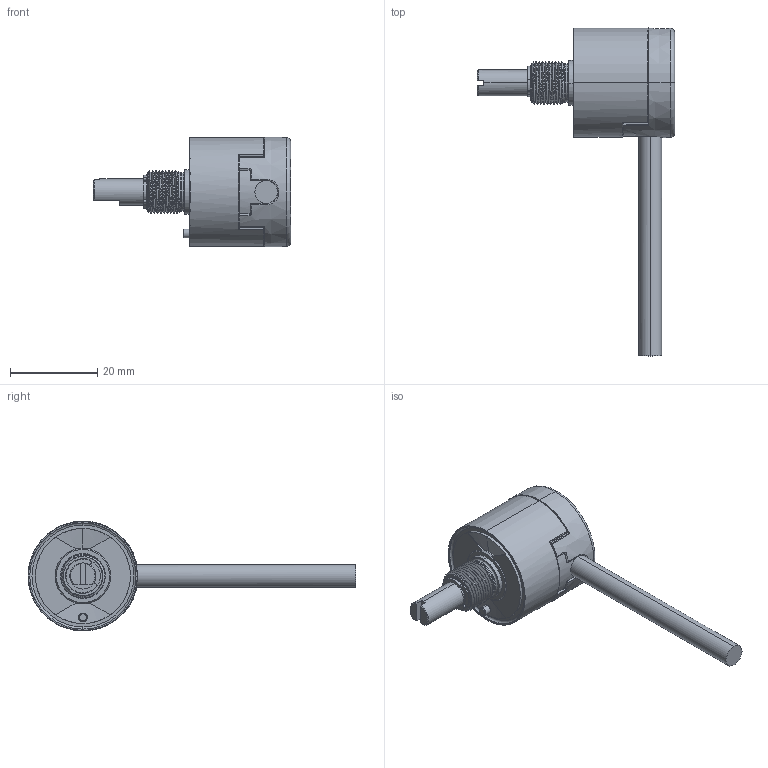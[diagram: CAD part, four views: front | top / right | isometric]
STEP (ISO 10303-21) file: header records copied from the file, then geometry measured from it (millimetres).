
FILE_DESCRIPTION (( 'STEP AP203' ), '1' );
FILE_NAME ('EZA25PM_Rundleitung.STEP', '2026-06-15T15:03:21', ( '' ), ( '' ), 'SwSTEP 2.0', 'SolidWorks 2024', '' );
FILE_SCHEMA (( 'CONFIG_CONTROL_DESIGN' ));
Length unit declared in the file: millimetre
Products named in the file (1): EZA25PM_Rundleitung
Bounding box: 45.3 x 75.3 x 25.21 mm (x, y, z)
Volume: 13380.3 mm3; surface area: 4717.6 mm2
Topology: 3 solids, 5 shells, 292 faces, 761 edges, 495 vertices
Faces by surface type: plane 143, cylinder 76, bspline 38, torus 17, cone 16, sphere 2
Entity records: 11458 total; most frequent: CARTESIAN_POINT 4549, ORIENTED_EDGE 1514, DIRECTION 1289, EDGE_CURVE 757, VERTEX_POINT 493, AXIS2_PLACEMENT_3D 438, LINE 413, VECTOR 413
